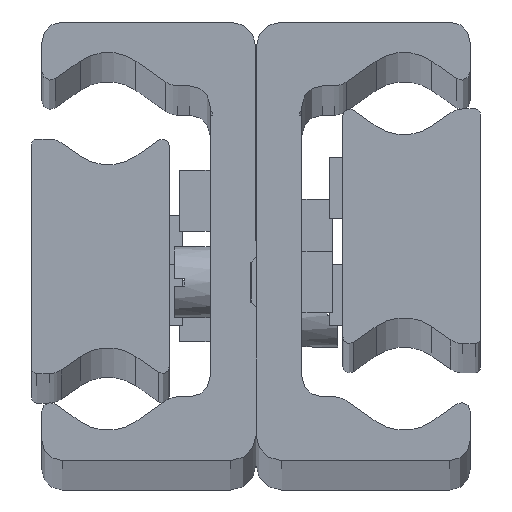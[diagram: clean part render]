
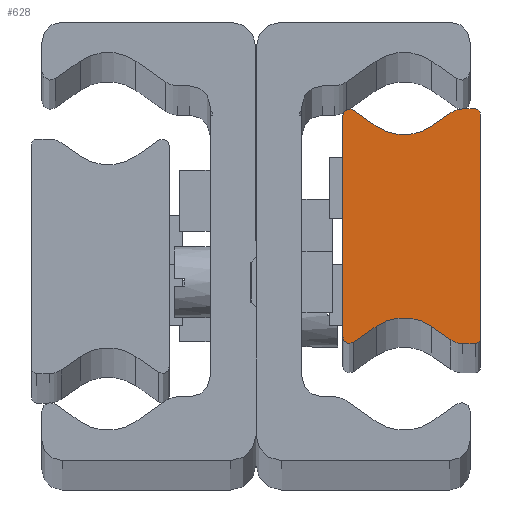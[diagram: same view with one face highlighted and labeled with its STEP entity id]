
A CAD part, top view. The second image highlights one B-rep face of the part: STEP entity #628.
In plain terms, the highlighted planar face has unit normal (0, 0, 1) as drawn and (0, 0, -1) by its records, which use the part's own axes.
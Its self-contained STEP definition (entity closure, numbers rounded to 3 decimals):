
#628 = ADVANCED_FACE( '', ( #1434 ), #1435, .F. );
#1434 = FACE_OUTER_BOUND( '', #2360, .T. );
#1435 = PLANE( '', #2361 );
#2360 = EDGE_LOOP( '', ( #3868, #3869, #3870, #3871, #3872, #3873, #3874, #3875, #3876, #3877, #3878, #3879, #3880, #3881, #3882, #3883 ) );
#2361 = AXIS2_PLACEMENT_3D( '', #3884, #3885, #3886 );
#3868 = ORIENTED_EDGE( '', *, *, #4823, .F. );
#3869 = ORIENTED_EDGE( '', *, *, #4497, .F. );
#3870 = ORIENTED_EDGE( '', *, *, #4513, .F. );
#3871 = ORIENTED_EDGE( '', *, *, #4769, .F. );
#3872 = ORIENTED_EDGE( '', *, *, #4986, .F. );
#3873 = ORIENTED_EDGE( '', *, *, #4987, .T. );
#3874 = ORIENTED_EDGE( '', *, *, #4988, .F. );
#3875 = ORIENTED_EDGE( '', *, *, #4592, .F. );
#3876 = ORIENTED_EDGE( '', *, *, #4801, .F. );
#3877 = ORIENTED_EDGE( '', *, *, #4711, .F. );
#3878 = ORIENTED_EDGE( '', *, *, #4989, .F. );
#3879 = ORIENTED_EDGE( '', *, *, #4866, .T. );
#3880 = ORIENTED_EDGE( '', *, *, #4932, .F. );
#3881 = ORIENTED_EDGE( '', *, *, #4827, .F. );
#3882 = ORIENTED_EDGE( '', *, *, #4722, .F. );
#3883 = ORIENTED_EDGE( '', *, *, #4990, .F. );
#3884 = CARTESIAN_POINT( '', ( 0.5, -11., -1650. ) );
#3885 = DIRECTION( '', ( 0., 0., 1. ) );
#3886 = DIRECTION( '', ( 1., 0., 0. ) );
#4497 = EDGE_CURVE( '', #5191, #5193, #5194, .T. );
#4513 = EDGE_CURVE( '', #5218, #5191, #5220, .T. );
#4592 = EDGE_CURVE( '', #5360, #5362, #5363, .T. );
#4711 = EDGE_CURVE( '', #5554, #5556, #5557, .T. );
#4722 = EDGE_CURVE( '', #5572, #5574, #5575, .T. );
#4769 = EDGE_CURVE( '', #5645, #5218, #5647, .T. );
#4801 = EDGE_CURVE( '', #5556, #5360, #5700, .T. );
#4823 = EDGE_CURVE( '', #5193, #5738, #5739, .T. );
#4827 = EDGE_CURVE( '', #5574, #5744, #5745, .T. );
#4866 = EDGE_CURVE( '', #5800, #5798, #5801, .T. );
#4932 = EDGE_CURVE( '', #5744, #5798, #5894, .T. );
#4986 = EDGE_CURVE( '', #5961, #5645, #5962, .T. );
#4987 = EDGE_CURVE( '', #5961, #5963, #5964, .T. );
#4988 = EDGE_CURVE( '', #5362, #5963, #5965, .T. );
#4989 = EDGE_CURVE( '', #5800, #5554, #5966, .T. );
#4990 = EDGE_CURVE( '', #5738, #5572, #5967, .T. );
#5191 = VERTEX_POINT( '', #6213 );
#5193 = VERTEX_POINT( '', #6216 );
#5194 = CIRCLE( '', #6217, 0.5 );
#5218 = VERTEX_POINT( '', #6247 );
#5220 = LINE( '', #6250, #6251 );
#5360 = VERTEX_POINT( '', #6414 );
#5362 = VERTEX_POINT( '', #6417 );
#5363 = CIRCLE( '', #6418, 0.668 );
#5554 = VERTEX_POINT( '', #6654 );
#5556 = VERTEX_POINT( '', #6657 );
#5557 = CIRCLE( '', #6658, 0.668 );
#5572 = VERTEX_POINT( '', #6675 );
#5574 = VERTEX_POINT( '', #6678 );
#5575 = LINE( '', #6679, #6680 );
#5645 = VERTEX_POINT( '', #6752 );
#5647 = CIRCLE( '', #6755, 2. );
#5700 = LINE( '', #6816, #6817 );
#5738 = VERTEX_POINT( '', #6861 );
#5739 = LINE( '', #6862, #6863 );
#5744 = VERTEX_POINT( '', #6869 );
#5745 = CIRCLE( '', #6870, 2. );
#5798 = VERTEX_POINT( '', #6932 );
#5800 = VERTEX_POINT( '', #6935 );
#5801 = CIRCLE( '', #6936, 4.763 );
#5894 = LINE( '', #7054, #7055 );
#5961 = VERTEX_POINT( '', #7144 );
#5962 = LINE( '', #7145, #7146 );
#5963 = VERTEX_POINT( '', #7147 );
#5964 = CIRCLE( '', #7148, 4.763 );
#5965 = LINE( '', #7149, #7150 );
#5966 = LINE( '', #7151, #7152 );
#5967 = CIRCLE( '', #7153, 0.5 );
#6213 = CARTESIAN_POINT( '', ( 0.5, 11.5, -1650. ) );
#6216 = CARTESIAN_POINT( '', ( 0., 11., -1650. ) );
#6217 = AXIS2_PLACEMENT_3D( '', #7387, #7388, #7389 );
#6247 = CARTESIAN_POINT( '', ( 1.748, 11.5, -1650. ) );
#6250 = CARTESIAN_POINT( '', ( 1.748, 11.5, -1650. ) );
#6251 = VECTOR( '', #7409, 1000. );
#6414 = CARTESIAN_POINT( '', ( 13.5, 10.832, -1650. ) );
#6417 = CARTESIAN_POINT( '', ( 12.449, 11.379, -1650. ) );
#6418 = AXIS2_PLACEMENT_3D( '', #7551, #7552, #7553 );
#6654 = CARTESIAN_POINT( '', ( 12.449, -11.379, -1650. ) );
#6657 = CARTESIAN_POINT( '', ( 13.5, -10.832, -1650. ) );
#6658 = AXIS2_PLACEMENT_3D( '', #7735, #7736, #7737 );
#6675 = CARTESIAN_POINT( '', ( 0.5, -11.5, -1650. ) );
#6678 = CARTESIAN_POINT( '', ( 1.748, -11.5, -1650. ) );
#6679 = CARTESIAN_POINT( '', ( 0.5, -11.5, -1650. ) );
#6680 = VECTOR( '', #7750, 1000. );
#6752 = CARTESIAN_POINT( '', ( 2.895, 11.138, -1650. ) );
#6755 = AXIS2_PLACEMENT_3D( '', #7826, #7827, #7828 );
#6816 = CARTESIAN_POINT( '', ( 13.5, -10.832, -1650. ) );
#6817 = VECTOR( '', #7894, 1000. );
#6861 = CARTESIAN_POINT( '', ( 0., -11., -1650. ) );
#6862 = CARTESIAN_POINT( '', ( 0., 11., -1650. ) );
#6863 = VECTOR( '', #7937, 1000. );
#6869 = CARTESIAN_POINT( '', ( 2.895, -11.138, -1650. ) );
#6870 = AXIS2_PLACEMENT_3D( '', #7942, #7943, #7944 );
#6932 = CARTESIAN_POINT( '', ( 4.768, -9.827, -1650. ) );
#6935 = CARTESIAN_POINT( '', ( 10.232, -9.827, -1650. ) );
#6936 = AXIS2_PLACEMENT_3D( '', #7997, #7998, #7999 );
#7054 = CARTESIAN_POINT( '', ( 2.895, -11.138, -1650. ) );
#7055 = VECTOR( '', #8073, 1000. );
#7144 = CARTESIAN_POINT( '', ( 4.768, 9.827, -1650. ) );
#7145 = CARTESIAN_POINT( '', ( 4.768, 9.827, -1650. ) );
#7146 = VECTOR( '', #8114, 1000. );
#7147 = CARTESIAN_POINT( '', ( 10.232, 9.827, -1650. ) );
#7148 = AXIS2_PLACEMENT_3D( '', #8115, #8116, #8117 );
#7149 = CARTESIAN_POINT( '', ( 12.449, 11.379, -1650. ) );
#7150 = VECTOR( '', #8118, 1000. );
#7151 = CARTESIAN_POINT( '', ( 10.232, -9.827, -1650. ) );
#7152 = VECTOR( '', #8119, 1000. );
#7153 = AXIS2_PLACEMENT_3D( '', #8120, #8121, #8122 );
#7387 = CARTESIAN_POINT( '', ( 0.5, 11., -1650. ) );
#7388 = DIRECTION( '', ( 0., 0., 1. ) );
#7389 = DIRECTION( '', ( 1., 0., 0. ) );
#7409 = DIRECTION( '', ( -1., 0., 0. ) );
#7551 = CARTESIAN_POINT( '', ( 12.832, 10.832, -1650. ) );
#7552 = DIRECTION( '', ( 0., 0., 1. ) );
#7553 = DIRECTION( '', ( 1., 0., 0. ) );
#7735 = CARTESIAN_POINT( '', ( 12.832, -10.832, -1650. ) );
#7736 = DIRECTION( '', ( 0., 0., 1. ) );
#7737 = DIRECTION( '', ( 1., 0., 0. ) );
#7750 = DIRECTION( '', ( 1., 0., 0. ) );
#7826 = CARTESIAN_POINT( '', ( 1.748, 9.5, -1650. ) );
#7827 = DIRECTION( '', ( 0., 0., 1. ) );
#7828 = DIRECTION( '', ( 1., 0., 0. ) );
#7894 = DIRECTION( '', ( 0., 1., 0. ) );
#7937 = DIRECTION( '', ( 0., -1., 0. ) );
#7942 = CARTESIAN_POINT( '', ( 1.748, -9.5, -1650. ) );
#7943 = DIRECTION( '', ( 0., 0., 1. ) );
#7944 = DIRECTION( '', ( 1., 0., 0. ) );
#7997 = CARTESIAN_POINT( '', ( 7.5, -13.729, -1650. ) );
#7998 = DIRECTION( '', ( 0., 0., 1. ) );
#7999 = DIRECTION( '', ( 1., 0., 0. ) );
#8073 = DIRECTION( '', ( 0.819, 0.574, 0. ) );
#8114 = DIRECTION( '', ( -0.819, 0.574, 0. ) );
#8115 = CARTESIAN_POINT( '', ( 7.5, 13.729, -1650. ) );
#8116 = DIRECTION( '', ( 0., 0., 1. ) );
#8117 = DIRECTION( '', ( 1., 0., 0. ) );
#8118 = DIRECTION( '', ( -0.819, -0.574, 0. ) );
#8119 = DIRECTION( '', ( 0.819, -0.574, 0. ) );
#8120 = CARTESIAN_POINT( '', ( 0.5, -11., -1650. ) );
#8121 = DIRECTION( '', ( 0., 0., 1. ) );
#8122 = DIRECTION( '', ( 1., 0., 0. ) );
